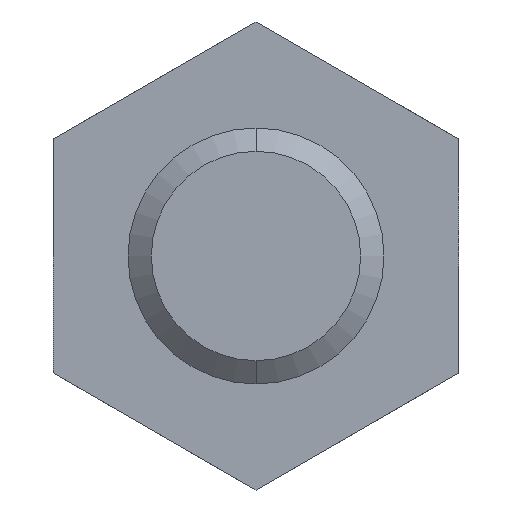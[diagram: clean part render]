
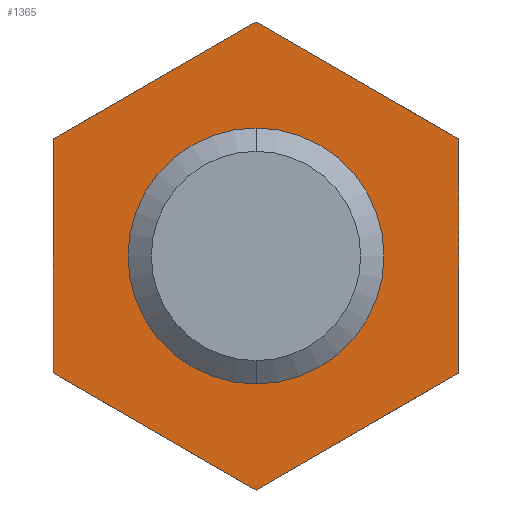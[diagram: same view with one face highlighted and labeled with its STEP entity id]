
A CAD part, front view. The second image highlights one B-rep face of the part: STEP entity #1365.
In plain terms, the highlighted planar face has unit normal (0, -1, 0).
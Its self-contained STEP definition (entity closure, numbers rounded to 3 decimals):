
#25 = EDGE_CURVE ( 'NONE', #120, #221, #1643, .T. ) ;
#44 = VERTEX_POINT ( 'NONE', #1661 ) ;
#52 = EDGE_CURVE ( 'NONE', #44, #122, #1724, .T. ) ;
#90 = VERTEX_POINT ( 'NONE', #1814 ) ;
#120 = VERTEX_POINT ( 'NONE', #1835 ) ;
#122 = VERTEX_POINT ( 'NONE', #1834 ) ;
#163 = VERTEX_POINT ( 'NONE', #1881 ) ;
#175 = EDGE_CURVE ( 'NONE', #198, #120, #1918, .T. ) ;
#196 = EDGE_CURVE ( 'NONE', #90, #163, #1991, .T. ) ;
#198 = VERTEX_POINT ( 'NONE', #1987 ) ;
#211 = EDGE_CURVE ( 'NONE', #163, #198, #2002, .T. ) ;
#221 = VERTEX_POINT ( 'NONE', #2037 ) ;
#227 = EDGE_CURVE ( 'NONE', #232, #90, #2082, .T. ) ;
#232 = VERTEX_POINT ( 'NONE', #2065 ) ;
#242 = EDGE_CURVE ( 'NONE', #221, #232, #2057, .T. ) ;
#1294 = EDGE_LOOP ( 'NONE', ( #1304, #1305, #1301, #1302, #1298, #1366 ) ) ;
#1295 = EDGE_LOOP ( 'NONE', ( #1308, #1309 ) ) ;
#1298 = ORIENTED_EDGE ( 'NONE', *, *, #227, .T. ) ;
#1301 = ORIENTED_EDGE ( 'NONE', *, *, #25, .T. ) ;
#1302 = ORIENTED_EDGE ( 'NONE', *, *, #242, .T. ) ;
#1304 = ORIENTED_EDGE ( 'NONE', *, *, #211, .T. ) ;
#1305 = ORIENTED_EDGE ( 'NONE', *, *, #175, .T. ) ;
#1308 = ORIENTED_EDGE ( 'NONE', *, *, #52, .T. ) ;
#1309 = ORIENTED_EDGE ( 'NONE', *, *, #1369, .T. ) ;
#1365 = ADVANCED_FACE ( 'NONE', ( #4137, #4133 ), #4132, .T. ) ;
#1366 = ORIENTED_EDGE ( 'NONE', *, *, #196, .T. ) ;
#1369 = EDGE_CURVE ( 'NONE', #122, #44, #4121, .T. ) ;
#1640 = DIRECTION ( 'NONE',  ( -0.866, 0., 0.5 ) ) ;
#1641 = VECTOR ( 'NONE', #1640, 1000. ) ;
#1642 = CARTESIAN_POINT ( 'NONE',  ( 9.5, 25., 5.485 ) ) ;
#1643 = LINE ( 'NONE', #1642, #1641 ) ;
#1661 = CARTESIAN_POINT ( 'NONE',  ( 0., 25., 6. ) ) ;
#1715 = DIRECTION ( 'NONE',  ( 0., 0., 1. ) ) ;
#1716 = DIRECTION ( 'NONE',  ( 0., 1., 0. ) ) ;
#1717 = CARTESIAN_POINT ( 'NONE',  ( 0., 25., 0. ) ) ;
#1718 = AXIS2_PLACEMENT_3D ( 'NONE', #1717, #1716, #1715 ) ;
#1724 = CIRCLE ( 'NONE', #1718, 6. ) ;
#1814 = CARTESIAN_POINT ( 'NONE',  ( -9.5, 25., -5.485 ) ) ;
#1834 = CARTESIAN_POINT ( 'NONE',  ( 0., 25., -6. ) ) ;
#1835 = CARTESIAN_POINT ( 'NONE',  ( 9.5, 25., 5.485 ) ) ;
#1881 = CARTESIAN_POINT ( 'NONE',  ( 0., 25., -10.97 ) ) ;
#1911 = DIRECTION ( 'NONE',  ( 0., 0., 1. ) ) ;
#1912 = VECTOR ( 'NONE', #1911, 1000. ) ;
#1913 = CARTESIAN_POINT ( 'NONE',  ( 9.5, 25., -5.485 ) ) ;
#1918 = LINE ( 'NONE', #1913, #1912 ) ;
#1987 = CARTESIAN_POINT ( 'NONE',  ( 9.5, 25., -5.485 ) ) ;
#1988 = DIRECTION ( 'NONE',  ( 0.866, 0., -0.5 ) ) ;
#1989 = VECTOR ( 'NONE', #1988, 1000. ) ;
#1990 = CARTESIAN_POINT ( 'NONE',  ( -9.5, 25., -5.485 ) ) ;
#1991 = LINE ( 'NONE', #1990, #1989 ) ;
#1999 = DIRECTION ( 'NONE',  ( 0.866, 0., 0.5 ) ) ;
#2000 = VECTOR ( 'NONE', #1999, 1000. ) ;
#2001 = CARTESIAN_POINT ( 'NONE',  ( 0., 25., -10.97 ) ) ;
#2002 = LINE ( 'NONE', #2001, #2000 ) ;
#2037 = CARTESIAN_POINT ( 'NONE',  ( 0., 25., 10.97 ) ) ;
#2057 = LINE ( 'NONE', #2104, #2103 ) ;
#2065 = CARTESIAN_POINT ( 'NONE',  ( -9.5, 25., 5.485 ) ) ;
#2071 = VECTOR ( 'NONE', #2080, 1000. ) ;
#2080 = DIRECTION ( 'NONE',  ( 0., 0., -1. ) ) ;
#2081 = CARTESIAN_POINT ( 'NONE',  ( -9.5, 25., 5.485 ) ) ;
#2082 = LINE ( 'NONE', #2081, #2071 ) ;
#2102 = DIRECTION ( 'NONE',  ( -0.866, 0., -0.5 ) ) ;
#2103 = VECTOR ( 'NONE', #2102, 1000. ) ;
#2104 = CARTESIAN_POINT ( 'NONE',  ( 0., 25., 10.97 ) ) ;
#4117 = DIRECTION ( 'NONE',  ( 0., 0., 1. ) ) ;
#4118 = DIRECTION ( 'NONE',  ( 0., 1., 0. ) ) ;
#4119 = CARTESIAN_POINT ( 'NONE',  ( 0., 25., 0. ) ) ;
#4120 = AXIS2_PLACEMENT_3D ( 'NONE', #4119, #4118, #4117 ) ;
#4121 = CIRCLE ( 'NONE', #4120, 6. ) ;
#4128 = DIRECTION ( 'NONE',  ( 0., 0., -1. ) ) ;
#4129 = DIRECTION ( 'NONE',  ( 0., -1., 0. ) ) ;
#4130 = CARTESIAN_POINT ( 'NONE',  ( -6., 25., 0. ) ) ;
#4131 = AXIS2_PLACEMENT_3D ( 'NONE', #4130, #4129, #4128 ) ;
#4132 = PLANE ( 'NONE',  #4131 ) ;
#4133 = FACE_OUTER_BOUND ( 'NONE', #1294, .T. ) ;
#4137 = FACE_BOUND ( 'NONE', #1295, .T. ) ;
